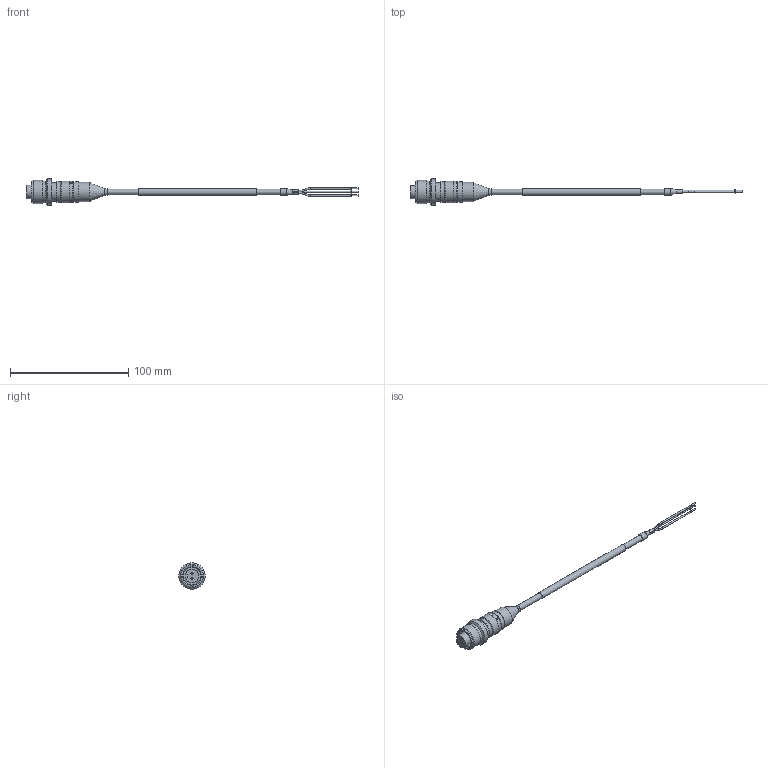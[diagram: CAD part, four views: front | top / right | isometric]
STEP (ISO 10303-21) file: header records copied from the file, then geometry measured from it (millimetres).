
FILE_DESCRIPTION (( 'STEP AP203' ), '1' );
FILE_NAME ('922-319-000-002.STEP', '2020-11-18T15:06:35', ( 'IT' ), ( 'MSS - CH' ), 'SwSTEP 2.0', 'SolidWorks 2017', '' );
FILE_SCHEMA (( 'CONFIG_CONTROL_DESIGN' ));
Length unit declared in the file: millimetre
Products named in the file (1): 922-319-000-002
Bounding box: 281.12 x 22.3 x 22.3 mm (x, y, z)
Volume: 17521 mm3; surface area: 8744.9 mm2
Topology: 1 solids, 1 shells, 92 faces, 205 edges, 133 vertices
Faces by surface type: cylinder 35, plane 29, cone 16, bspline 6, torus 6
Full cylindrical faces by diameter (mm): 0.8 x3, 0.9 x3, 1.1 x4, 1.3 x2, 1.8 x2, 4.8 x2, 5.6 x1, 5.75 x1, 5.8 x1, 14.5 x1, 14.7 x1, 15.875 x1, 16.17 x1, 17.17 x1, 17.2 x1, 18.3 x1, 18.5 x3, 19.6 x1, 22.3 x1
Entity records: 2575 total; most frequent: CARTESIAN_POINT 871, DIRECTION 351, ORIENTED_EDGE 228, EDGE_LOOP 175, AXIS2_PLACEMENT_3D 165, FACE_OUTER_BOUND 135, EDGE_CURVE 114, VERTEX_POINT 101
